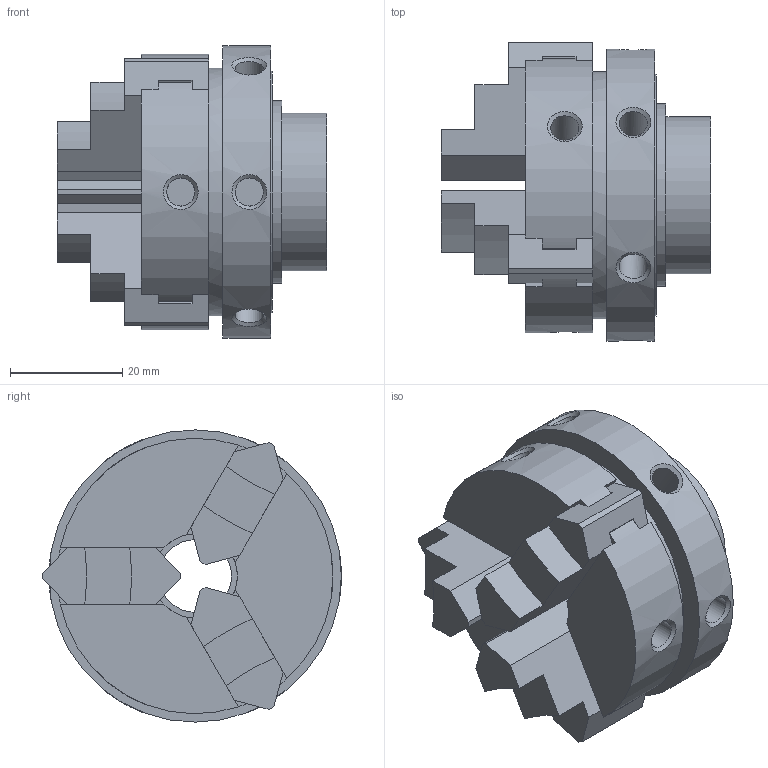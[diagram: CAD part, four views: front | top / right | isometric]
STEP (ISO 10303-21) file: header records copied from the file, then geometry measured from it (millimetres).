
FILE_DESCRIPTION(('STEP AP214'), '1');
FILE_NAME('K01-50 - 眈襝鍙', '', ('UNSPECIFIED'), ('UNSPECIFIED'), 'ASCON STEP Converter 1.3', 'ASCON Math Kernel', '');
FILE_SCHEMA(('AUTOMOTIVE_DESIGN { 1 0 10303 214 3 1 1}'));
Length unit declared in the file: millimetre
Products named in the file (3): K01-50; ﾊ11-80
Assembly tree (4 placements, depth 2):
  K01-50
    (unnamed)
    ﾊ11-80  x3
Bounding box: 48 x 53.14 x 52 mm (x, y, z)
Volume: 50959.2 mm3; surface area: 18642.6 mm2
Topology: 4 solids, 4 shells, 152 faces, 375 edges, 244 vertices
Faces by surface type: plane 115, cylinder 26, bspline 10, cone 1
Full cylindrical faces by diameter (mm): 5 x9, 12.918 x1, 15 x2, 28 x1, 32.5 x1, 43 x1, 44 x1, 52 x1
Entity records: 6361 total; most frequent: CARTESIAN_POINT 2915, DIRECTION 486, ORIENTED_EDGE 456, EDGE_CURVE 228, AXIS2_PLACEMENT_3D 175, VERTEX_POINT 164, EDGE_LOOP 150, LINE 136
